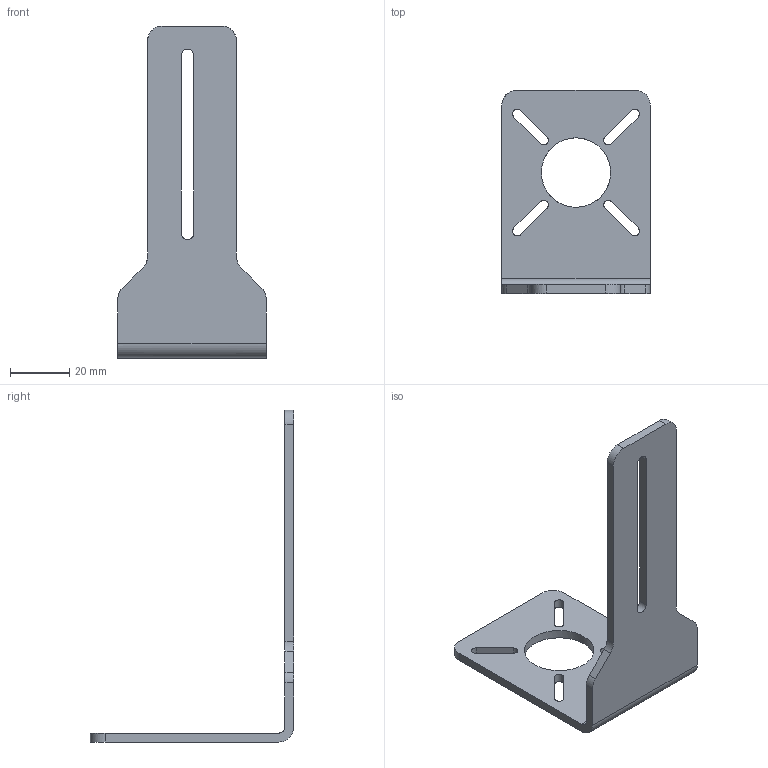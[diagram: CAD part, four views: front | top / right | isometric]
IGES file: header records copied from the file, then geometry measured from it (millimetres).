
Global section: file name: 153-00721_MA LR-23_112 FA 45 Haltewinkel Beleuchtung; native system: Autodesk Inventor 2018; preprocessor: unknown; author: mum; date: 20180502.083742; units: millimetre
Bounding box: 50 x 68.6 x 112 mm (x, y, z)
Volume: 18582.7 mm3; surface area: 14725.1 mm2
Topology: 1 solids, 1 shells, 43 faces, 123 edges, 82 vertices
Faces by surface type: bspline 43
